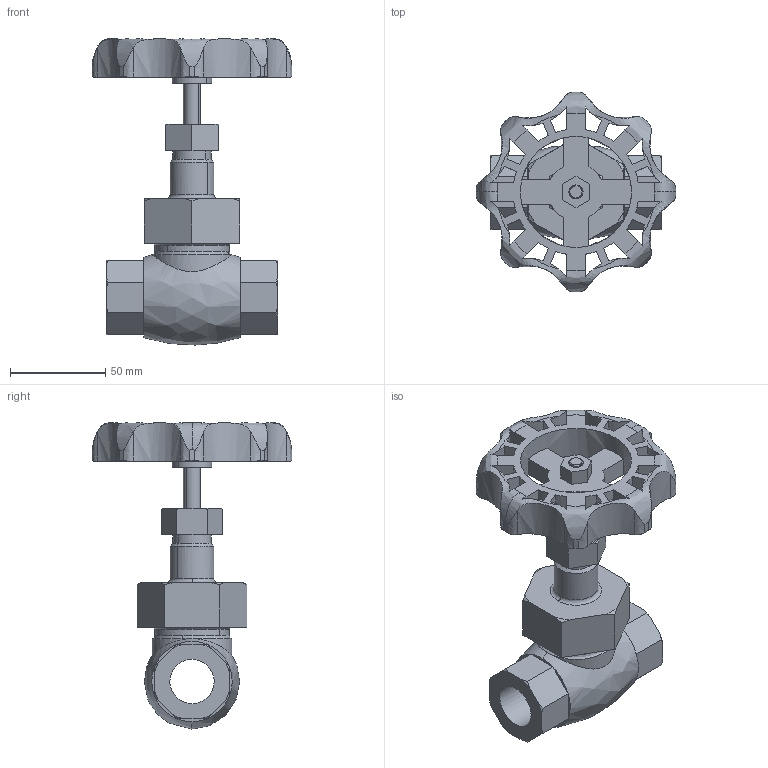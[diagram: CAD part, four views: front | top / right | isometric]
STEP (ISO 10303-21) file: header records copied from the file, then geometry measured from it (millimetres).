
FILE_DESCRIPTION((''),'2;1');
FILE_NAME('','2022-09-15T15:23:46',(''),(''),'','CADfix','');
FILE_SCHEMA(('AUTOMOTIVE_DESIGN { 1 0 10303 214 1 1 1 1 }'));
Length unit declared in the file: millimetre
Bounding box: 104.94 x 104.92 x 160.78 mm (x, y, z)
Volume: 263302.9 mm3; surface area: 65021.8 mm2
Topology: 1 solids, 1 shells, 238 faces, 771 edges, 524 vertices
Faces by surface type: bspline 238
Entity records: 11300 total; most frequent: CARTESIAN_POINT 6816, ORIENTED_EDGE 1542, EDGE_CURVE 771, VERTEX_POINT 524, B_SPLINE_CURVE_WITH_KNOTS 428, QUASI_UNIFORM_CURVE 322, EDGE_LOOP 269, FACE_OUTER_BOUND 238
